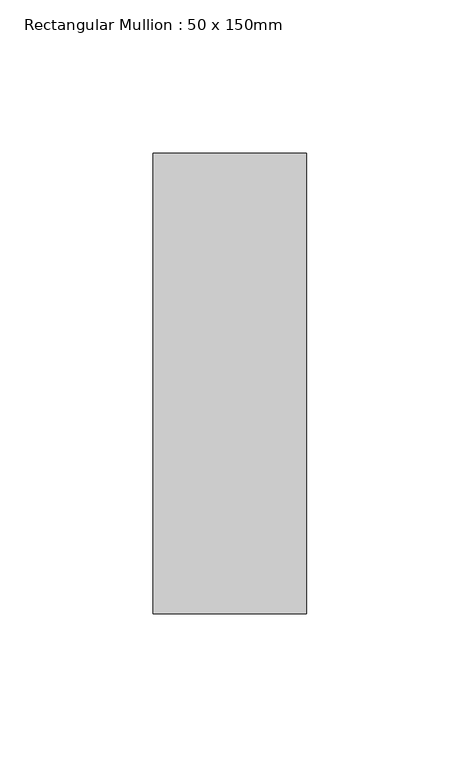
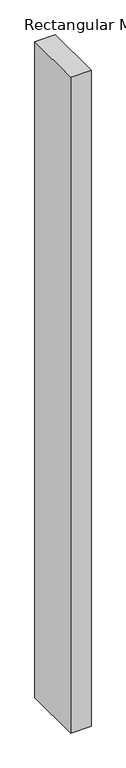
"""IFC4 building model written with IfcOpenShell, lengths in millimetres: member geometry, Rectangular Mullion : 50 x 150mm."""

from ifc_helpers import new_model, si_unit, frame, origin, place, context, project, spatial, polyline, outline, extrude, source, transform, mapped, element, save


def rectangular_mullion_50_x_150mm_fcf054f2(model_context):
    return source(origin(), model_context, "Body", "SweptSolid", [
        extrude(outline(polyline([(0.0, 75.0), (0.0, -75.0), (-50.0, -75.0), (-50.0, 75.0), (0.0, 75.0)])), frame((0.0, 0.0, -1687.0), z_axis=(0.0, 0.0, 1.0), x_axis=(1.0, 0.0, 0.0)), (0.0, 0.0, 1.0), 1687.0),
    ])


if __name__ == "__main__":
    model = new_model("IFC4")
    model_context = context("Model", 3, world=origin())
    ifc_project = project(units=[si_unit("LENGTHUNIT", "METRE", prefix="MILLI")], contexts=[model_context])
    site = spatial("IfcSite", under=ifc_project)
    building = spatial("IfcBuilding", under=site)
    placement = place(None, origin())
    rectangular_mullion_50_x_150mm_shape = rectangular_mullion_50_x_150mm_fcf054f2(model_context)
    element("IfcMember", 1, ObjectType="Rectangular Mullion : 50 x 150mm", at=placement, inside=building, context=model_context, shape_type="MappedRepresentation", body=[
        mapped(rectangular_mullion_50_x_150mm_shape, transform((0.0, 0.0, 0.0), x_axis=(1.0, 0.0, 0.0), y_axis=(0.0, 1.0, 0.0), z_axis=(0.0, 0.0, 1.0))),
    ])
    save(model, "model.ifc")
